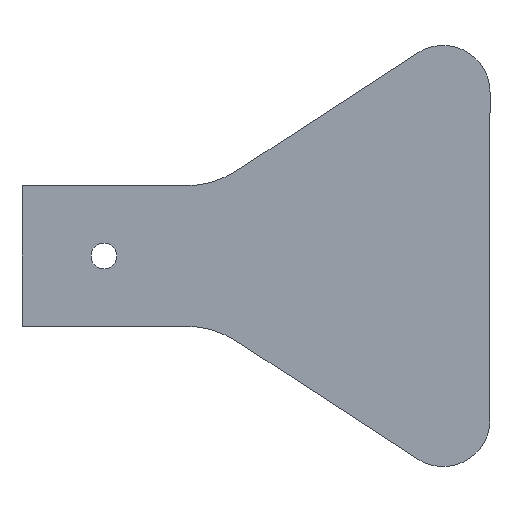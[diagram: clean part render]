
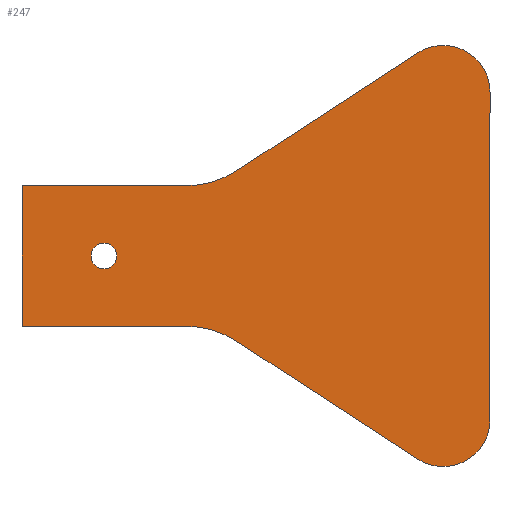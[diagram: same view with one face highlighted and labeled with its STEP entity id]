
A CAD part, left-side view. The second image highlights one B-rep face of the part: STEP entity #247.
In plain terms, the highlighted planar face has unit normal (-1, 0, 0).
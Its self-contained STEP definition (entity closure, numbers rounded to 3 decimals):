
#16=FACE_BOUND('',#52,.T.);
#24=PLANE('',#284);
#37=FACE_OUTER_BOUND('',#51,.T.);
#51=EDGE_LOOP('',(#219,#220,#221,#222,#223,#224,#225,#226,#227,#228));
#52=EDGE_LOOP('',(#229));
#54=LINE('',#366,#77);
#59=LINE('',#380,#82);
#62=LINE('',#386,#85);
#65=LINE('',#392,#88);
#69=LINE('',#404,#92);
#73=LINE('',#416,#96);
#77=VECTOR('',#296,10.);
#82=VECTOR('',#309,10.);
#85=VECTOR('',#314,10.);
#88=VECTOR('',#319,10.);
#92=VECTOR('',#331,10.);
#96=VECTOR('',#343,10.);
#99=CIRCLE('',#263,2.75);
#101=CIRCLE('',#267,20.);
#103=CIRCLE('',#273,20.);
#105=CIRCLE('',#277,10.);
#107=CIRCLE('',#281,10.);
#109=VERTEX_POINT('',#358);
#111=VERTEX_POINT('',#364);
#112=VERTEX_POINT('',#365);
#115=VERTEX_POINT('',#373);
#117=VERTEX_POINT('',#379);
#119=VERTEX_POINT('',#385);
#121=VERTEX_POINT('',#391);
#123=VERTEX_POINT('',#397);
#125=VERTEX_POINT('',#403);
#127=VERTEX_POINT('',#409);
#129=VERTEX_POINT('',#415);
#131=EDGE_CURVE('',#109,#109,#99,.T.);
#134=EDGE_CURVE('',#111,#112,#54,.T.);
#138=EDGE_CURVE('',#112,#115,#101,.T.);
#141=EDGE_CURVE('',#115,#117,#59,.T.);
#144=EDGE_CURVE('',#117,#119,#62,.T.);
#147=EDGE_CURVE('',#119,#121,#65,.T.);
#150=EDGE_CURVE('',#121,#123,#103,.T.);
#153=EDGE_CURVE('',#123,#125,#69,.T.);
#156=EDGE_CURVE('',#127,#125,#105,.T.);
#159=EDGE_CURVE('',#127,#129,#73,.T.);
#162=EDGE_CURVE('',#111,#129,#107,.T.);
#219=ORIENTED_EDGE('',*,*,#162,.F.);
#220=ORIENTED_EDGE('',*,*,#134,.T.);
#221=ORIENTED_EDGE('',*,*,#138,.T.);
#222=ORIENTED_EDGE('',*,*,#141,.T.);
#223=ORIENTED_EDGE('',*,*,#144,.T.);
#224=ORIENTED_EDGE('',*,*,#147,.T.);
#225=ORIENTED_EDGE('',*,*,#150,.T.);
#226=ORIENTED_EDGE('',*,*,#153,.T.);
#227=ORIENTED_EDGE('',*,*,#156,.F.);
#228=ORIENTED_EDGE('',*,*,#159,.T.);
#229=ORIENTED_EDGE('',*,*,#131,.T.);
#247=ADVANCED_FACE('',(#37,#16),#24,.F.);
#263=AXIS2_PLACEMENT_3D('',#359,#289,#290);
#267=AXIS2_PLACEMENT_3D('',#374,#302,#303);
#273=AXIS2_PLACEMENT_3D('',#398,#324,#325);
#277=AXIS2_PLACEMENT_3D('',#410,#336,#337);
#281=AXIS2_PLACEMENT_3D('',#421,#348,#349);
#284=AXIS2_PLACEMENT_3D('',#424,#354,#355);
#289=DIRECTION('center_axis',(1.,0.,0.));
#290=DIRECTION('ref_axis',(0.,-1.,0.));
#296=DIRECTION('',(0.,0.838,-0.545));
#302=DIRECTION('center_axis',(1.,0.,0.));
#303=DIRECTION('ref_axis',(0.,-0.545,-0.838));
#309=DIRECTION('',(0.,1.,0.));
#314=DIRECTION('',(0.,0.,-1.));
#319=DIRECTION('',(0.,-1.,0.));
#324=DIRECTION('center_axis',(1.,0.,0.));
#325=DIRECTION('ref_axis',(0.,0.,1.));
#331=DIRECTION('',(0.,-0.838,-0.545));
#336=DIRECTION('center_axis',(1.,0.,0.));
#337=DIRECTION('ref_axis',(0.,-1.,0.));
#343=DIRECTION('',(0.,0.,1.));
#348=DIRECTION('center_axis',(1.,0.,0.));
#349=DIRECTION('ref_axis',(0.,0.545,0.838));
#354=DIRECTION('center_axis',(1.,0.,0.));
#355=DIRECTION('ref_axis',(0.,1.,0.));
#358=CARTESIAN_POINT('',(0.,-14.75,0.));
#359=CARTESIAN_POINT('Origin',(0.,-17.5,0.));
#364=CARTESIAN_POINT('',(0.,-84.545,43.381));
#365=CARTESIAN_POINT('',(0.,-45.909,18.237));
#366=CARTESIAN_POINT('',(0.,-84.545,43.381));
#373=CARTESIAN_POINT('',(0.,-35.,15.));
#374=CARTESIAN_POINT('Origin',(0.,-35.,35.));
#379=CARTESIAN_POINT('',(0.,0.,15.));
#380=CARTESIAN_POINT('',(0.,-35.,15.));
#385=CARTESIAN_POINT('',(0.,0.,-15.));
#386=CARTESIAN_POINT('',(0.,0.,15.));
#391=CARTESIAN_POINT('',(0.,-35.,-15.));
#392=CARTESIAN_POINT('',(0.,0.,-15.));
#397=CARTESIAN_POINT('',(0.,-45.909,-18.237));
#398=CARTESIAN_POINT('Origin',(0.,-35.,-35.));
#403=CARTESIAN_POINT('',(0.,-84.545,-43.381));
#404=CARTESIAN_POINT('',(0.,-45.909,-18.237));
#409=CARTESIAN_POINT('',(0.,-100.,-35.));
#410=CARTESIAN_POINT('Origin',(0.,-90.,-35.));
#415=CARTESIAN_POINT('',(0.,-100.,35.));
#416=CARTESIAN_POINT('',(0.,-100.,-35.));
#421=CARTESIAN_POINT('Origin',(0.,-90.,35.));
#424=CARTESIAN_POINT('Origin',(0.,-50.,0.));
